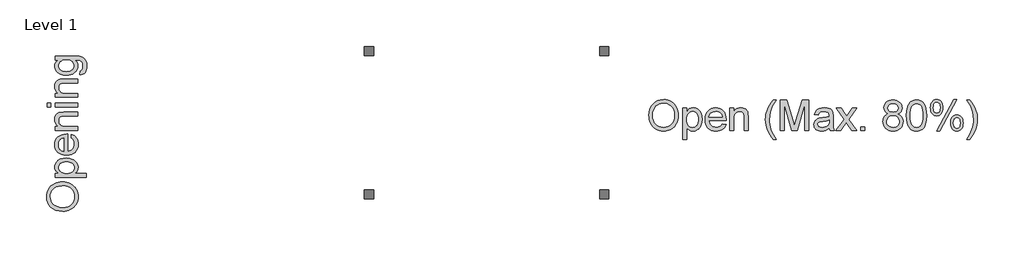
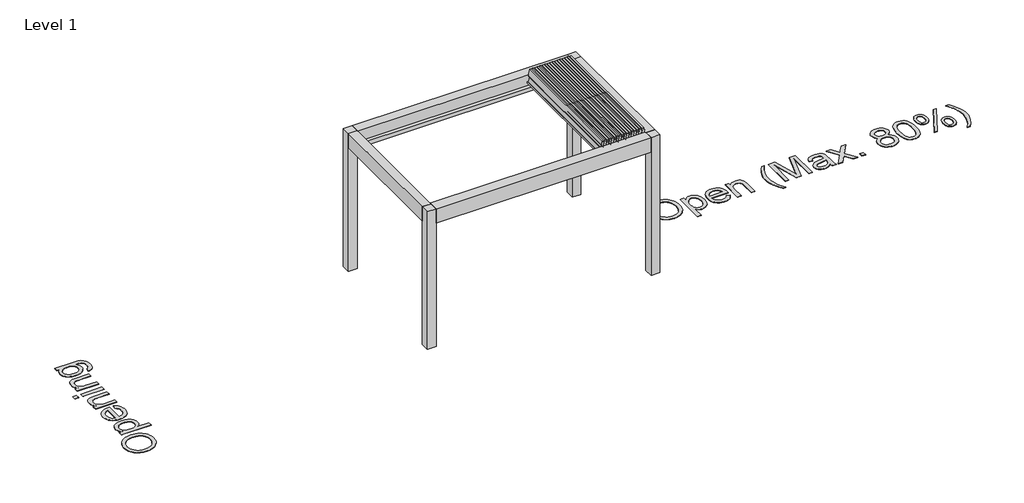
# One storey, part 49 of 69: 3 proxies.
"""IFC4 building model written with IfcOpenShell, lengths in millimetres."""

from ifc_helpers import new_model, si_unit, origin, origin_with_axes, place, context, project, spatial, polyline, outline, extrude, transform, mapped, element, save
from components import generic_models_d3a7603d

model = new_model("IFC4")

# Units and contexts
model_context = context("Model", 3, world=origin())
ifc_project = project(units=[si_unit("LENGTHUNIT", "METRE", prefix="MILLI")], contexts=[model_context])

# Site, building, storey
site = spatial("IfcSite", under=ifc_project)
building = spatial("IfcBuilding", under=site)
storey = spatial("IfcBuildingStorey", under=building, Name="Level 1", Elevation=0.0)

# Proxies
placement = place(None, origin())
generic_models_shape = generic_models_d3a7603d(model_context)
element("IfcBuildingElementProxy", 1, Name="Renson_Camargue_Skye_Freestanding_Patio covers : Renson_Camargue_Skye_Freestanding_Patio covers", ObjectType="Renson_Camargue_Skye_Freestanding_Patio covers : Renson_Camargue_Skye_Freestanding_Patio covers", at=placement, inside=storey, context=model_context, shape_type="MappedRepresentation", body=[
    mapped(generic_models_shape, transform((89532.7944478, 53378.5861401, 0.0), x_axis=(1.0, 0.0, 0.0), y_axis=(0.0, 1.0, 0.0), z_axis=(0.0, 0.0, 1.0))),
])
element("IfcBuildingElementProxy", 2, Name="500mm Arial", ObjectType="500mm Arial", at=placement, inside=storey, context=model_context, shape_type="SweptSolid", body=[
    extrude(outline(polyline([(92189.4887705, 53492.4677741), (92193.6734282, 53551.3825428), (92206.2274013, 53603.5374798), (92227.1506898, 53648.9325852), (92256.4432936, 53687.5678589), (92292.3501092, 53718.416297), (92333.1160328, 53740.4508957), (92378.7410644, 53753.6716549), (92429.225204, 53758.0785746), (92463.0166981, 53756.0092384), (92495.106738, 53749.8012297), (92525.4953236, 53739.4545486), (92554.182455, 53724.9691951), (92580.3633904, 53706.7820289), (92603.2333877, 53685.3299101), (92622.7924471, 53660.6128385), (92639.0405686, 53632.6308143), (92651.8091395, 53602.0199666), (92660.9295473, 53569.4164248), (92666.401792, 53534.8201888), (92668.2258736, 53498.2312587), (92666.3059894, 53461.1594835), (92660.5463369, 53426.0957308), (92650.9469161, 53393.0400007), (92637.507727, 53361.9922931), (92620.5468341, 53333.7726784), (92600.3823023, 53309.2012268), (92577.0141314, 53288.2779384), (92550.4423214, 53271.002813), (92521.7130369, 53257.4831497), (92491.8724421, 53247.8262473), (92460.9205372, 53242.0321059), (92428.857322, 53240.1007254), (92394.4756839, 53242.2352074), (92361.9641126, 53248.6386534), (92331.3226081, 53259.3110633), (92302.5511703, 53274.2524373), (92276.4008919, 53292.8841275), (92253.622865, 53314.6274863), (92234.2170897, 53339.4825136), (92218.1835661, 53367.4492094), (92205.629593, 53397.4047673), (92196.6624694, 53428.2263807), (92191.2821952, 53459.9140496), (92189.4887705, 53492.4677741)]), holes=[polyline([(92252.2739643, 53491.8546374), (92255.4124576, 53450.2303225), (92264.8279374, 53413.2811746), (92280.5204038, 53381.0071938), (92302.4898567, 53353.4083799), (92329.1957903, 53331.3048034), (92359.0976987, 53315.5165344), (92392.1955819, 53306.043573), (92428.48944, 53302.8859193), (92465.404099, 53306.0742299), (92498.8928569, 53315.6391618), (92528.9557136, 53331.5807149), (92555.5926694, 53353.8988893), (92577.4011739, 53382.0801829), (92592.9786771, 53415.6110939), (92602.3251791, 53454.4916223), (92605.4406797, 53498.721768), (92600.1063908, 53554.3026061), (92584.103524, 53602.3418633), (92572.2048407, 53623.2306629), (92557.8459466, 53641.6285947), (92541.0268416, 53657.5356589), (92521.7475258, 53670.9518554), (92500.6058074, 53681.6012728), (92478.1994946, 53689.2079994), (92454.5285875, 53693.7720354), (92429.593086, 53695.2933808), (92394.5599902, 53692.3618211), (92362.0560831, 53683.5671422), (92332.0813647, 53668.9093439), (92304.635835, 53648.3884264), (92281.7275166, 53621.0157067), (92265.364432, 53585.802502), (92255.5465813, 53542.7488122), (92252.2739643, 53491.8546374)])]), origin_with_axes(), (0.0, 0.0, 1.0), 5.0),
    extrude(outline(polyline([(92746.7073659, 53106.6821885), (92746.7073659, 53616.8118885), (92809.4925597, 53616.8118885), (92809.4925597, 53555.2529679), (92829.9713241, 53585.618561), (92852.9026351, 53607.3082703), (92879.6353934, 53620.3220958), (92911.5184997, 53624.6600377), (92933.4151426, 53623.1425245), (92953.9782133, 53618.5899848), (92973.2077118, 53611.0024186), (92991.103638, 53600.379826), (93007.2751174, 53586.9981184), (93021.3312753, 53571.1332074), (93043.0976266, 53531.9537749), (93056.249408, 53485.692614), (93060.6333351, 53435.2008102), (93055.6822566, 53381.5053673), (93040.829021, 53333.4814385), (93029.8078896, 53312.2055965), (93016.5488093, 53293.566242), (93001.0517803, 53277.5633753), (92983.3168024, 53264.1969961), (92944.6125508, 53246.1247931), (92903.9156051, 53240.1007254), (92875.0521969, 53244.1320989), (92849.2851288, 53256.2262195), (92827.2275376, 53274.4823635), (92809.4925597, 53296.9998073), (92809.4925597, 53106.6821885), (92746.7073659, 53106.6821885)]), holes=[polyline([(92809.4925597, 53429.4373256), (92811.1901818, 53399.1790315), (92816.2830482, 53373.1513803), (92824.7711588, 53351.3543721), (92836.6545137, 53333.7880069), (92850.9597583, 53320.2683435), (92866.7135384, 53310.6114412), (92883.9158537, 53304.8172997), (92902.5667045, 53302.8859193), (92921.4858025, 53304.8862776), (92939.0023504, 53310.8873527), (92955.1163482, 53320.8891444), (92969.8277959, 53334.8916528), (92982.086697, 53353.0941474), (92990.8430549, 53375.6958975), (92996.0968697, 53402.6969031), (92997.8481412, 53434.0971642), (92996.1390228, 53464.0948752), (92991.0116675, 53490.0765411), (92982.4660753, 53512.0421619), (92970.5022463, 53529.9917376), (92956.1625127, 53543.9405966), (92940.4892068, 53553.9040673), (92923.4823287, 53559.8821497), (92905.1418784, 53561.8748439), (92886.8589097, 53559.7556903), (92869.6565943, 53553.3982296), (92853.5349323, 53542.8024617), (92838.4939237, 53527.9683866), (92825.8058269, 53509.0952739), (92816.7429007, 53486.3823928), (92811.3051449, 53459.8297433), (92809.4925597, 53429.4373256)])]), origin_with_axes(), (0.0, 0.0, 1.0), 5.0),
    extrude(outline(polyline([(93389.5198388, 53357.8229639), (93451.0787593, 53349.9748146), (93441.6402869, 53325.3190568), (93428.8985407, 53303.5910264), (93412.8535207, 53284.7907236), (93393.505227, 53268.9181484), (93371.052929, 53256.3105258), (93345.6958961, 53247.3050812), (93317.4341282, 53241.9018143), (93286.2676255, 53240.1007254), (93247.310455, 53243.2085619), (93212.5992559, 53252.5320712), (93182.1340282, 53268.0712534), (93155.9147718, 53289.8261084), (93134.830535, 53317.1911639), (93119.7703658, 53349.5609474), (93110.7342643, 53386.9354588), (93107.7222305, 53429.3146983), (93110.7649211, 53473.1309767), (93119.8929931, 53511.750922), (93135.1064465, 53545.1745341), (93156.4052812, 53573.401813), (93182.5555596, 53595.8272863), (93212.3233444, 53611.8454815), (93245.7086355, 53621.4563987), (93282.7114328, 53624.6600377), (93318.5224458, 53621.4640629), (93350.9075577, 53611.8761384), (93379.8667685, 53595.8962642), (93405.4000782, 53573.5244404), (93426.2428925, 53545.3584751), (93441.130617, 53511.9961767), (93450.0632517, 53473.4375451), (93453.0407966, 53429.6825803), (93452.6729146, 53412.7600085), (93170.5074243, 53412.7600085), (93174.1440911, 53387.7057118), (93181.3752716, 53365.7630836), (93192.2009657, 53346.932124), (93206.6211735, 53331.2128329), (93223.8388173, 53318.8198082), (93243.0568194, 53309.9676477), (93264.2751799, 53304.6563514), (93287.4938988, 53302.8859193), (93320.9098467, 53306.1662004), (93349.0528193, 53316.0070438), (93371.9228167, 53333.021586), (93389.5198388, 53357.8229639)]), holes=[polyline([(93170.5074243, 53475.5452023), (93390.2556028, 53475.5452023), (93381.76366, 53508.7158956), (93365.1169997, 53532.4442842), (93347.9951586, 53545.3201541), (93328.5127412, 53554.517204), (93306.6697478, 53560.0354339), (93282.4661782, 53561.8748439), (93240.1444203, 53556.0040604), (93221.73116, 53548.665581), (93205.1496455, 53538.3917098), (93191.2352755, 53525.6576279), (93180.8234486, 53510.9385159), (93173.9141649, 53494.2343741), (93170.5074243, 53475.5452023)])]), origin_with_axes(), (0.0, 0.0, 1.0), 5.0),
    extrude(outline(polyline([(93515.8259904, 53247.9488746), (93515.8259904, 53616.8118885), (93578.6111843, 53616.8118885), (93578.6111843, 53565.3084092), (93600.4235209, 53591.2747466), (93626.6197847, 53609.8221306), (93657.1999755, 53620.9505609), (93692.1640935, 53624.6600377), (93723.1121663, 53621.6709965), (93751.4544084, 53612.7038729), (93775.0908265, 53598.8776412), (93791.9214278, 53581.3112759), (93803.3410981, 53560.0507623), (93810.7447232, 53535.1420855), (93814.0556612, 53474.4415563), (93814.0556612, 53247.9488746), (93751.2704674, 53247.9488746), (93751.2704674, 53465.9802705), (93749.4617142, 53498.4458565), (93744.0354548, 53521.5304517), (93734.0259988, 53538.0698131), (93718.4676561, 53550.8996977), (93698.5253863, 53559.1310573), (93675.364149, 53561.8748439), (93656.299431, 53560.334338), (93638.5912779, 53555.7128204), (93622.2396896, 53548.0102912), (93607.2446662, 53537.2267502), (93594.7175179, 53522.1359242), (93585.7695548, 53501.5115398), (93580.4007769, 53475.3535971), (93578.6111843, 53443.6620961), (93578.6111843, 53247.9488746), (93515.8259904, 53247.9488746)])), origin_with_axes(), (0.0, 0.0, 1.0), 5.0),
    extrude(outline(polyline([(94222.1594212, 53106.6821885), (94196.8138846, 53139.4773355), (94173.5070273, 53174.9549554), (94133.009351, 53253.9576139), (94117.0754621, 53296.5246264), (94105.6941129, 53339.8580598), (94098.8653033, 53383.9579139), (94096.5890335, 53428.8241889), (94098.2904877, 53468.2565403), (94103.3948504, 53506.8458288), (94111.9021215, 53544.5920543), (94123.8123011, 53581.4952169), (94141.915161, 53623.8169748), (94164.3406343, 53666.0467622), (94191.088721, 53708.184579), (94222.1594212, 53750.2304254), (94269.2483166, 53750.2304254), (94210.5098247, 53650.7796594), (94190.4602559, 53603.5681366), (94175.1931531, 53554.3945766), (94163.3289588, 53491.578726), (94159.3742273, 53428.4563069), (94161.09101, 53388.2077174), (94166.2413579, 53347.9667921), (94174.8252711, 53307.733531), (94186.8427496, 53267.5079341), (94221.1784025, 53187.0797329), (94269.2483166, 53106.6821885), (94222.1594212, 53106.6821885)])), origin_with_axes(), (0.0, 0.0, 1.0), 5.0),
    extrude(outline(polyline([(94339.8816596, 53247.9488746), (94339.8816596, 53750.2304254), (94447.9163389, 53750.2304254), (94550.6780429, 53396.2053187), (94571.4020619, 53322.2610377), (94593.8428636, 53402.3366853), (94694.887785, 53750.2304254), (94802.9224642, 53750.2304254), (94802.9224642, 53247.9488746), (94740.1372704, 53247.9488746), (94740.1372704, 53687.4452315), (94613.953746, 53247.9488746), (94528.8503778, 53247.9488746), (94402.6668535, 53687.4452315), (94402.6668535, 53247.9488746), (94339.8816596, 53247.9488746)])), origin_with_axes(), (0.0, 0.0, 1.0), 5.0),
    extrude(outline(polyline([(95140.3928811, 53295.03777), (95110.3951701, 53269.3166872), (95079.5084109, 53252.4860859), (95047.0274964, 53243.1970655), (95012.2473195, 53240.1007254), (94984.29212, 53241.963128), (94959.7781499, 53247.5503358), (94938.7054094, 53256.8623488), (94921.0738983, 53269.899167), (94907.1518641, 53285.8330559), (94897.2075539, 53303.8362811), (94891.2409678, 53323.9088424), (94889.2521058, 53346.05074), (94892.2564754, 53372.0783912), (94901.2695843, 53395.7148094), (94915.172458, 53415.9483191), (94932.8461222, 53431.7672449), (94953.6161265, 53443.7234097), (94976.8080206, 53452.3686366), (95031.1319286, 53461.8109412), (95095.3273367, 53471.743755), (95140.0249991, 53483.3933516), (95140.3928811, 53497.3728674), (95136.0702677, 53525.3932127), (95123.1024274, 53543.7259988), (95110.0272881, 53551.6661185), (95094.1010634, 53557.3376326), (95053.6953576, 53561.8748439), (95016.2940214, 53558.8551458), (94990.1743998, 53549.7960517), (94972.3627798, 53533.0420925), (94959.8854488, 53506.9377992), (94897.100255, 53514.7859485), (94907.9987591, 53549.1216014), (94924.262209, 53576.0996143), (94947.4081178, 53596.7316629), (94978.9539989, 53612.0294225), (95017.5356232, 53621.5023839), (95061.7887615, 53624.6600377), (95104.2331467, 53621.8702659), (95137.8790208, 53613.5009505), (95163.2475501, 53600.9163206), (95180.8599006, 53585.4806052), (95192.540154, 53566.3967267), (95200.1123917, 53542.8676074), (95203.178075, 53487.9305628), (95203.178075, 53409.8169525), (95206.3663856, 53300.739941), (95211.0875379, 53273.7772564), (95218.8743734, 53247.9488746), (95156.0891796, 53247.9488746), (95146.0337384, 53269.7765397), (95140.3928811, 53295.03777)]), holes=[polyline([(95140.3928811, 53420.6081577), (95098.209079, 53410.1541777), (95039.1027051, 53401.3556666), (94985.0853655, 53391.1775981), (94971.0292076, 53384.218497), (94960.6212128, 53374.6229083), (94954.1832779, 53363.126596), (94952.0372996, 53350.465324), (94956.7124666, 53331.7953127), (94970.7379677, 53316.4975531), (94993.8072345, 53306.2888277), (95025.6136986, 53302.8859193), (95059.3362149, 53306.6413813), (95089.1346565, 53317.9077674), (95113.2922408, 53334.5084424), (95130.0921853, 53354.2667713), (95137.5417957, 53374.6229083), (95140.0249991, 53402.8271946), (95140.3928811, 53420.6081577)])]), origin_with_axes(), (0.0, 0.0, 1.0), 5.0),
    extrude(outline(polyline([(95250.2669704, 53247.9488746), (95384.4212713, 53433.3614002), (95258.1151196, 53616.8118885), (95333.6535559, 53616.8118885), (95394.5993398, 53528.5202096), (95423.0488808, 53486.8269168), (95447.6969744, 53520.9173151), (95517.1040442, 53616.8118885), (95592.6424805, 53616.8118885), (95459.9597076, 53433.3614002), (95587.7373873, 53247.9488746), (95512.1989509, 53247.9488746), (95435.3116139, 53359.4171192), (95421.2094708, 53379.7732562), (95325.8054067, 53247.9488746), (95250.2669704, 53247.9488746)])), origin_with_axes(), (0.0, 0.0, 1.0), 5.0),
    extrude(outline(polyline([(95658.3707304, 53247.9488746), (95658.3707304, 53310.7340685), (95721.1559242, 53310.7340685), (95721.1559242, 53247.9488746), (95658.3707304, 53247.9488746)])), origin_with_axes(), (0.0, 0.0, 1.0), 5.0),
    extrude(outline(polyline([(96110.8655844, 53524.596135), (96077.2503671, 53541.1508248), (96053.6599342, 53563.5916265), (96039.7264036, 53591.4586876), (96035.0818934, 53624.2921557), (96037.6110821, 53649.8982754), (96045.1986483, 53673.3737452), (96057.8445919, 53694.7185652), (96075.5489129, 53713.9327352), (96097.4608842, 53729.8129747), (96122.7297788, 53741.1560028), (96151.3555965, 53747.9618198), (96183.3383375, 53750.2304254), (96215.4743626, 53747.9081703), (96244.3147782, 53740.941405), (96269.8595842, 53729.3301295), (96292.1087807, 53713.0743439), (96310.1349985, 53693.4846276), (96323.0108683, 53671.8715604), (96330.7363902, 53648.2351422), (96333.3115642, 53622.5753731), (96328.7283676, 53590.7995657), (96314.9787781, 53563.4076855), (96291.9095113, 53541.1048396), (96259.3672831, 53524.596135), (96280.0031638, 53515.8167845), (96298.010221, 53504.684522), (96313.3884549, 53491.1993476), (96326.1378653, 53475.3612613), (96336.1434891, 53457.5228167), (96343.2903633, 53438.0365672), (96349.0078626, 53394.1206541), (96346.1721056, 53362.8046992), (96337.6648344, 53334.0945752), (96323.4860492, 53307.9902819), (96303.6357499, 53284.4918195), (96279.1562688, 53265.0707158), (96251.0899382, 53251.1984989), (96219.4367582, 53242.8751688), (96184.1967288, 53240.1007254), (96148.9566993, 53242.8866651), (96117.3035193, 53251.2444842), (96089.2371888, 53265.1741826), (96064.7577077, 53284.6757605), (96044.9074084, 53308.3390034), (96030.7286231, 53334.7536971), (96022.221352, 53363.9198415), (96019.385595, 53395.8374367), (96020.8724513, 53419.6577959), (96025.3330205, 53441.4548041), (96032.7673025, 53461.2284613), (96043.1752973, 53478.9787676), (96056.3270786, 53494.3838262), (96071.9927203, 53507.1217402), (96090.1722222, 53517.1925099), (96110.8655844, 53524.596135)]), holes=[polyline([(96097.8670873, 53622.4527457), (96103.4313024, 53595.0455371), (96120.123948, 53573.1565584), (96132.5208048, 53564.787243), (96147.4545145, 53558.8091606), (96184.9324928, 53554.0266946), (96221.5367513, 53558.7785037), (96236.2060459, 53564.7182651), (96248.4534506, 53573.033931), (96265.0081404, 53594.1871458), (96270.5263703, 53619.6323171), (96264.8241994, 53646.0431787), (96247.7176866, 53667.8861721), (96235.1943704, 53676.4432606), (96220.4331053, 53682.5554667), (96184.1967288, 53687.4452315), (96147.730426, 53682.6627656), (96132.9576646, 53676.6846832), (96120.49183, 53668.3153678), (96103.5232729, 53647.2847804), (96097.8670873, 53622.4527457)]), polyline([(96082.1707888, 53398.0447287), (96084.791948, 53374.0251001), (96092.6554257, 53350.7718923), (96107.171436, 53330.4923973), (96129.7501935, 53315.3939071), (96156.7895201, 53306.0129162), (96184.6872381, 53302.8859193), (96207.3886229, 53304.5298919), (96227.4228632, 53309.4618099), (96244.7899591, 53317.6816733), (96259.4899105, 53329.1894819), (96271.1854922, 53343.2341435), (96279.5394792, 53359.0645656), (96284.5518714, 53376.6807482), (96286.2226688, 53396.0826914), (96284.4982219, 53415.7950349), (96279.3248814, 53433.7292822), (96270.7026471, 53449.8854332), (96258.6315191, 53464.2634878), (96243.5330289, 53476.0663685), (96225.8287079, 53484.4969975), (96205.5185561, 53489.555375), (96182.6025735, 53491.2415008), (96160.2345817, 53489.5783676), (96140.4647566, 53484.588968), (96123.2930981, 53476.2733021), (96108.7196061, 53464.6313698), (96097.1044985, 53450.4909056), (96088.8079931, 53434.679644), (96083.8300899, 53417.1975851), (96082.1707888, 53398.0447287)])]), origin_with_axes(), (0.0, 0.0, 1.0), 5.0),
    extrude(outline(polyline([(96403.9449072, 53495.0429481), (96408.5587606, 53575.4404924), (96422.4003207, 53639.5592585), (96432.7470018, 53665.7593544), (96445.3316317, 53688.380265), (96460.1542104, 53707.4219903), (96477.2147379, 53722.8845304), (96496.5706958, 53734.8483595), (96518.2795657, 53743.3939516), (96542.3413474, 53748.521307), (96568.7560411, 53750.2304254), (96607.4449642, 53746.1837234), (96642.0871855, 53734.0436176), (96671.0578926, 53714.2852888), (96692.7322735, 53687.3839179), (96709.1030222, 53653.5694312), (96722.1628331, 53613.0717549), (96730.7160895, 53561.6449176), (96733.5671749, 53495.0429481), (96728.9993068, 53415.1052562), (96715.2957025, 53351.1397743), (96705.0294956, 53324.9281821), (96692.5023472, 53302.2727826), (96677.7142574, 53283.1735757), (96660.6652262, 53267.6305614), (96641.2862757, 53255.5862581), (96619.508428, 53246.9831844), (96595.3316831, 53241.8213402), (96568.7560411, 53240.1007254), (96534.1751335, 53243.0897666), (96503.5183006, 53252.0568903), (96476.7855423, 53267.0020963), (96453.9768586, 53287.9253848), (96432.0878799, 53325.7482524), (96416.4528951, 53372.8754688), (96407.0719042, 53429.3070341), (96403.9449072, 53495.0429481)]), holes=[polyline([(96466.7301011, 53495.1655754), (96468.5695111, 53440.5849165), (96474.087741, 53396.4045881), (96483.2847909, 53362.6245903), (96496.1606607, 53339.2449231), (96511.7343318, 53323.3378589), (96529.0247856, 53311.9756702), (96548.032022, 53305.158357), (96568.7560411, 53302.8859193), (96589.4800601, 53305.1660212), (96608.4872966, 53312.0063271), (96625.7777503, 53323.4068368), (96641.3514215, 53339.3675504), (96654.2272913, 53362.7855387), (96663.4243412, 53396.5578723), (96668.9425711, 53440.6845512), (96670.7819811, 53495.1655754), (96669.0038848, 53548.3015311), (96663.6695958, 53591.7039423), (96654.7791143, 53625.3728091), (96642.3324401, 53649.3081314), (96627.0193521, 53665.9931127), (96609.5296289, 53677.9109565), (96589.8632706, 53685.0616628), (96568.0202771, 53687.4452315), (96547.4035569, 53685.3452385), (96528.7182173, 53679.0452593), (96511.9642581, 53668.545294), (96497.1416794, 53653.8453427), (96483.8366139, 53627.7870347), (96474.3329957, 53592.6543041), (96468.6308247, 53548.447151), (96466.7301011, 53495.1655754)])]), origin_with_axes(), (0.0, 0.0, 1.0), 5.0),
    extrude(outline(polyline([(97125.9746364, 53377.075455), (97127.5802881, 53403.2525582), (97132.3972429, 53427.3373325), (97140.4255011, 53449.3297781), (97151.6650624, 53469.2298947), (97165.9703071, 53485.727103), (97183.1956151, 53497.5108231), (97203.3409864, 53504.5810552), (97226.4064211, 53506.9377992), (97247.8278831, 53504.8186457), (97267.3332931, 53498.4611849), (97284.922651, 53487.8654171), (97300.5959568, 53473.031342), (97313.4718267, 53454.0892514), (97322.6688765, 53431.1694367), (97328.1871065, 53404.2718979), (97330.0265164, 53373.396635), (97328.1679459, 53343.1766619), (97322.5922344, 53316.6508372), (97313.299382, 53293.8191609), (97300.2893885, 53274.681633), (97284.5356085, 53259.5524859), (97267.0113963, 53248.7459523), (97247.7167521, 53242.2620321), (97226.6516758, 53240.1007254), (97205.9698099, 53242.2428716), (97187.0890329, 53248.6693102), (97170.0093448, 53259.3800412), (97154.7307457, 53274.3750646), (97142.1499479, 53293.6467162), (97133.1636638, 53317.1873318), (97127.7718933, 53344.9969114), (97125.9746364, 53377.075455)]), holes=[polyline([(97228.0005764, 53459.8489039), (97206.2648819, 53455.0970948), (97188.637203, 53440.8416674), (97181.8237218, 53429.3530193), (97176.9569496, 53413.8943113), (97173.0635318, 53371.0667157), (97177.0029349, 53331.91794), (97181.9271886, 53317.378937), (97188.821144, 53306.1968572), (97206.4028376, 53291.9414299), (97227.6326944, 53287.1896208), (97249.6443005, 53291.9414299), (97267.3639499, 53306.1968572), (97274.177431, 53317.6625127), (97279.0442033, 53333.0522429), (97282.9376211, 53375.603927), (97278.998218, 53415.2585404), (97274.0739642, 53429.8780176), (97267.1800089, 53441.0256084), (97249.5063447, 53455.14308), (97228.0005764, 53459.8489039)])]), origin_with_axes(), (0.0, 0.0, 1.0), 5.0),
    extrude(outline(polyline([(96898.5009361, 53240.1007254), (97176.8649791, 53758.0785746), (97229.2268498, 53758.0785746), (96950.8628067, 53240.1007254), (96898.5009361, 53240.1007254)])), origin_with_axes(), (0.0, 0.0, 1.0), 5.0),
    extrude(outline(polyline([(96796.3523688, 53628.2162303), (96797.9580204, 53654.2438815), (96802.7749753, 53678.2481817), (96810.8032334, 53700.2291309), (96822.0427948, 53720.1867291), (96836.332711, 53736.7644115), (96853.5120338, 53748.6056132), (96873.580763, 53755.7103343), (96896.5388988, 53758.0785746), (96918.0676597, 53755.959421), (96937.6497117, 53749.6019603), (96955.2850549, 53739.0061924), (96970.9736891, 53724.1721174), (96983.849559, 53705.2300268), (96993.0466089, 53682.310212), (96998.5648388, 53655.4126732), (97000.4042488, 53624.5374104), (96998.5418462, 53594.3174373), (96992.9546384, 53567.7916126), (96983.6426253, 53544.9599363), (96970.6058071, 53525.8224083), (96954.848195, 53510.6932613), (96937.3738002, 53499.8867277), (96918.1826228, 53493.4028075), (96897.2746628, 53491.2415008), (96876.5353153, 53493.3721507), (96857.604721, 53499.7641003), (96840.4828798, 53510.4173498), (96825.1697917, 53525.331899), (96812.5621692, 53544.546069), (96803.5567245, 53568.0981809), (96798.1534577, 53595.9882347), (96796.3523688, 53628.2162303)]), holes=[polyline([(96898.2556814, 53710.9896792), (96876.6885995, 53706.2378701), (96859.0762489, 53691.9824428), (96852.2359431, 53680.4937947), (96847.3500103, 53665.0350867), (96843.4412641, 53622.2074911), (96847.3959956, 53582.8287892), (96852.3394099, 53568.2782898), (96859.2601899, 53557.1536916), (96876.9185257, 53543.03622), (96898.2556814, 53538.3303962), (96920.0067044, 53543.0822053), (96937.6803686, 53557.3376326), (96944.5206744, 53568.8032881), (96949.4066072, 53584.1930182), (96953.3153534, 53626.7447023), (96949.3606219, 53666.3993157), (96944.4172076, 53681.0187929), (96937.4964276, 53692.1663838), (96919.7767781, 53706.2838554), (96898.2556814, 53710.9896792)])]), origin_with_axes(), (0.0, 0.0, 1.0), 5.0),
    extrude(outline(polyline([(97439.9006057, 53106.6821885), (97392.8117103, 53106.6821885), (97440.8816243, 53187.0797329), (97475.2172772, 53267.5079341), (97487.2347557, 53307.733531), (97495.8186689, 53347.9667921), (97500.9690169, 53388.2077174), (97502.6857995, 53428.4563069), (97498.7310681, 53491.1188735), (97486.8668737, 53553.2909306), (97471.8756824, 53602.5564612), (97451.9180842, 53649.7986407), (97392.8117103, 53750.2304254), (97439.9006057, 53750.2304254), (97470.9713058, 53708.184579), (97497.7193926, 53666.0467622), (97520.1448659, 53623.8169748), (97538.2477257, 53581.4952169), (97550.1579053, 53544.5920543), (97558.6651764, 53506.8458288), (97563.7695391, 53468.2565403), (97565.4709933, 53428.8241889), (97563.1832272, 53383.9579139), (97556.3199287, 53339.8580598), (97544.8810979, 53296.5246264), (97528.8667348, 53253.9576139), (97488.3230733, 53174.9549554), (97439.9006057, 53106.6821885)])), origin_with_axes(), (0.0, 0.0, 1.0), 5.0),
])
element("IfcBuildingElementProxy", 3, Name="500mm Arial", ObjectType="500mm Arial", at=placement, inside=storey, context=model_context, shape_type="SweptSolid", body=[
    extrude(outline(polyline([(82598.1031501, 51927.6849232), (82539.1883814, 51931.8695809), (82487.0334444, 51944.423554), (82441.638339, 51965.3468425), (82403.0030653, 51994.6394463), (82372.1546272, 52030.5462619), (82350.1200285, 52071.3121855), (82336.8992693, 52116.9372171), (82332.4923496, 52167.4213567), (82334.5616858, 52201.2128508), (82340.7696945, 52233.3028907), (82351.1163756, 52263.6914764), (82365.6017292, 52292.3786078), (82383.7888953, 52318.5595431), (82405.2410141, 52341.4295405), (82429.9580857, 52360.9885999), (82457.9401099, 52377.2367213), (82488.5509576, 52390.0052922), (82521.1544995, 52399.1257), (82555.7507354, 52404.5979447), (82592.3396655, 52406.4220263), (82629.4114407, 52404.5021421), (82664.4751934, 52398.7424896), (82697.5309235, 52389.1430688), (82728.5786311, 52375.7038797), (82756.7982458, 52358.7429869), (82781.3696974, 52338.578455), (82802.2929859, 52315.2102841), (82819.5681112, 52288.6384742), (82833.0877745, 52259.9091896), (82842.7446769, 52230.0685948), (82848.5388183, 52199.1166899), (82850.4701988, 52167.0534748), (82848.3357168, 52132.6718366), (82841.9322708, 52100.1602653), (82831.2598609, 52069.5187608), (82816.3184869, 52040.7473231), (82797.6867967, 52014.5970446), (82775.9434379, 51991.8190177), (82751.0884106, 51972.4132425), (82723.1217148, 51956.3797188), (82693.1661569, 51943.8257458), (82662.3445435, 51934.8586221), (82630.6568746, 51929.4783479), (82598.1031501, 51927.6849232)]), holes=[polyline([(82598.7162868, 51990.4701171), (82640.3406017, 51993.6086103), (82677.2897496, 52003.0240902), (82709.5637304, 52018.7165565), (82737.1625443, 52040.6860094), (82759.2661208, 52067.391943), (82775.0543898, 52097.2938514), (82784.5273512, 52130.3917347), (82787.685005, 52166.6855928), (82784.4966943, 52203.6002517), (82774.9317625, 52237.0890096), (82758.9902093, 52267.1518664), (82736.672035, 52293.7888221), (82708.4907413, 52315.5973266), (82674.9598303, 52331.1748298), (82636.0793019, 52340.5213318), (82591.8491562, 52343.6368324), (82536.2683181, 52338.3025435), (82488.2290609, 52322.2996767), (82467.3402613, 52310.4009934), (82448.9423295, 52296.0420993), (82433.0352653, 52279.2229943), (82419.6190688, 52259.9436785), (82408.9696514, 52238.8019601), (82401.3629248, 52216.3956474), (82396.7988888, 52192.7247402), (82395.2775434, 52167.7892387), (82398.2091031, 52132.7561429), (82407.003782, 52100.2522358), (82421.6615803, 52070.2775174), (82442.1824978, 52042.8319877), (82469.5552175, 52019.9236693), (82504.7684223, 52003.5605847), (82547.822112, 51993.742734), (82598.7162868, 51990.4701171)])]), origin_with_axes(), (0.0, 0.0, 1.0), 5.0),
    extrude(outline(polyline([(82983.8887357, 52484.9035186), (82473.7590357, 52484.9035186), (82473.7590357, 52547.6887124), (82535.3179563, 52547.6887124), (82504.9523632, 52568.1674768), (82483.262654, 52591.0987879), (82470.2488284, 52617.8315462), (82465.9108865, 52649.7146524), (82467.4283997, 52671.6112953), (82471.9809394, 52692.174366), (82479.5685056, 52711.4038645), (82490.1910982, 52729.2997907), (82503.5728058, 52745.4712701), (82519.4377168, 52759.527428), (82558.6171493, 52781.2937794), (82604.8783102, 52794.4455607), (82655.370114, 52798.8294878), (82709.0655569, 52793.8784093), (82757.0894857, 52779.0251737), (82778.3653277, 52768.0040423), (82797.0046822, 52754.744962), (82813.007549, 52739.247933), (82826.3739281, 52721.5129551), (82844.4461311, 52682.8087036), (82850.4701988, 52642.1117579), (82846.4388253, 52613.2483497), (82834.3447047, 52587.4812816), (82816.0885607, 52565.4236903), (82793.5711169, 52547.6887124), (82983.8887357, 52547.6887124), (82983.8887357, 52484.9035186)]), holes=[polyline([(82661.1335986, 52547.6887124), (82691.3918927, 52549.3863346), (82717.4195439, 52554.4792009), (82739.2165521, 52562.9673115), (82756.7829174, 52574.8506664), (82770.3025807, 52589.1559111), (82779.9594831, 52604.9096911), (82785.7536245, 52622.1120065), (82787.685005, 52640.7628572), (82785.6846466, 52659.6819552), (82779.6835716, 52677.1985031), (82769.6817798, 52693.312501), (82755.6792714, 52708.0239487), (82737.4767768, 52720.2828497), (82714.8750267, 52729.0392076), (82687.8740211, 52734.2930224), (82656.47376, 52736.044294), (82626.476049, 52734.3351755), (82600.4943831, 52729.2078202), (82578.5287623, 52720.662228), (82560.5791866, 52708.698399), (82546.6303276, 52694.3586654), (82536.6668569, 52678.6853595), (82530.6887745, 52661.6784815), (82528.6960804, 52643.3380312), (82530.8152339, 52625.0550624), (82537.1726947, 52607.8527471), (82547.7684625, 52591.731085), (82562.6025376, 52576.6900764), (82581.4756504, 52564.0019797), (82604.1885314, 52554.9390534), (82630.7411809, 52549.5012977), (82661.1335986, 52547.6887124)])]), origin_with_axes(), (0.0, 0.0, 1.0), 5.0),
    extrude(outline(polyline([(82732.7479603, 53127.7159915), (82740.5961096, 53189.274912), (82765.2518675, 53179.8364396), (82786.9798978, 53167.0946934), (82805.7802006, 53151.0496735), (82821.6527758, 53131.7013798), (82834.2603984, 53109.2490818), (82843.2658431, 53083.8920488), (82848.6691099, 53055.630281), (82850.4701988, 53024.4637782), (82847.3623624, 52985.5066077), (82838.038853, 52950.7954086), (82822.4996709, 52920.3301809), (82800.7448158, 52894.1109246), (82773.3797603, 52873.0266877), (82741.0099768, 52857.9665185), (82703.6354654, 52848.930417), (82661.2562259, 52845.9183832), (82617.4399475, 52848.9610739), (82578.8200022, 52858.0891459), (82545.3963901, 52873.3025992), (82517.1691112, 52894.6014339), (82494.7436379, 52920.7517124), (82478.7254427, 52950.5194971), (82469.1145256, 52983.9047882), (82465.9108865, 53020.9075856), (82469.1068613, 53056.7185985), (82478.6947858, 53089.1037104), (82494.67466, 53118.0629212), (82517.0464838, 53143.5962309), (82545.2124491, 53164.4390452), (82578.5747475, 53179.3267697), (82617.1333792, 53188.2594044), (82660.888344, 53191.2369493), (82677.8109157, 53190.8690673), (82677.8109157, 52908.703577), (82702.8652124, 52912.3402438), (82724.8078406, 52919.5714243), (82743.6388002, 52930.3971184), (82759.3580913, 52944.8173262), (82771.751116, 52962.03497), (82780.6032766, 52981.2529722), (82785.9145729, 53002.4713327), (82787.685005, 53025.6900515), (82784.4047238, 53059.1059994), (82774.5638805, 53087.248972), (82757.5493382, 53110.1189694), (82732.7479603, 53127.7159915)]), holes=[polyline([(82615.0257219, 52908.703577), (82615.0257219, 53128.4517555), (82581.8550287, 53119.9598128), (82558.12664, 53103.3131525), (82545.2507701, 53086.1913113), (82536.0537203, 53066.708894), (82530.5354903, 53044.8659005), (82528.6960804, 53020.6623309), (82534.5668639, 52978.340573), (82541.9053432, 52959.9273128), (82552.1792144, 52943.3457982), (82564.9132964, 52929.4314282), (82579.6324083, 52919.0196013), (82596.3365501, 52912.1103176), (82615.0257219, 52908.703577)])]), origin_with_axes(), (0.0, 0.0, 1.0), 5.0),
    extrude(outline(polyline([(82842.6220496, 53254.0221432), (82473.7590357, 53254.0221432), (82473.7590357, 53316.807337), (82525.2625151, 53316.807337), (82499.2961776, 53338.6196736), (82480.7487936, 53364.8159374), (82469.6203633, 53395.3961282), (82465.9108865, 53430.3602462), (82468.8999277, 53461.308319), (82477.8670514, 53489.6505611), (82491.693283, 53513.2869793), (82509.2596483, 53530.1175805), (82530.5201619, 53541.5372508), (82555.4288387, 53548.940876), (82616.1293679, 53552.2518139), (82842.6220496, 53552.2518139), (82842.6220496, 53489.4666201), (82624.5906538, 53489.4666201), (82592.1250677, 53487.6578669), (82569.0404725, 53482.2316075), (82552.5011111, 53472.2221516), (82539.6712265, 53456.6638088), (82531.4398669, 53436.721539), (82528.6960804, 53413.5603017), (82530.2365862, 53394.4955838), (82534.8581038, 53376.7874306), (82542.560633, 53360.4358424), (82553.344174, 53345.440819), (82568.435, 53332.9136706), (82589.0593844, 53323.9657075), (82615.2173271, 53318.5969296), (82646.9088281, 53316.807337), (82842.6220496, 53316.807337), (82842.6220496, 53254.0221432)])), origin_with_axes(), (0.0, 0.0, 1.0), 5.0),
    extrude(outline(polyline([(82842.6220496, 53638.5814555), (82473.7590357, 53638.5814555), (82473.7590357, 53701.3666493), (82842.6220496, 53701.3666493), (82842.6220496, 53638.5814555)])), origin_with_axes(), (0.0, 0.0, 1.0), 5.0),
    extrude(outline(polyline([(82403.1256927, 53638.5814555), (82340.3404988, 53638.5814555), (82340.3404988, 53701.3666493), (82403.1256927, 53701.3666493), (82403.1256927, 53638.5814555)])), origin_with_axes(), (0.0, 0.0, 1.0), 5.0),
    extrude(outline(polyline([(82842.6220496, 53795.5444401), (82473.7590357, 53795.5444401), (82473.7590357, 53858.3296339), (82525.2625151, 53858.3296339), (82499.2961776, 53880.1419705), (82480.7487936, 53906.3382343), (82469.6203633, 53936.9184251), (82465.9108865, 53971.8825431), (82468.8999277, 54002.8306159), (82477.8670514, 54031.172858), (82491.693283, 54054.8092762), (82509.2596483, 54071.6398774), (82530.5201619, 54083.0595477), (82555.4288387, 54090.4631729), (82616.1293679, 54093.7741108), (82842.6220496, 54093.7741108), (82842.6220496, 54030.988917), (82624.5906538, 54030.988917), (82592.1250677, 54029.1801638), (82569.0404725, 54023.7539044), (82552.5011111, 54013.7444485), (82539.6712265, 53998.1861057), (82531.4398669, 53978.2438359), (82528.6960804, 53955.0825986), (82530.2365862, 53936.0178807), (82534.8581038, 53918.3097275), (82542.560633, 53901.9581393), (82553.344174, 53886.9631159), (82568.435, 53874.4359675), (82589.0593844, 53865.4880044), (82615.2173271, 53860.1192265), (82646.9088281, 53858.3296339), (82842.6220496, 53858.3296339), (82842.6220496, 53795.5444401)])), origin_with_axes(), (0.0, 0.0, 1.0), 5.0),
    extrude(outline(polyline([(82874.0146465, 54164.4074539), (82881.8627957, 54227.1926477), (82901.4831688, 54234.121092), (82914.9721753, 54247.5487848), (82925.4568122, 54273.944318), (82928.9516911, 54308.4945687), (82924.9969597, 54345.3440819), (82913.1327653, 54372.7512905), (82894.1255289, 54391.7585269), (82868.7416712, 54403.4081234), (82841.7330014, 54406.8110319), (82795.5331542, 54407.70008), (82816.1345459, 54386.8074484), (82830.8498257, 54363.492927), (82839.6789936, 54337.7565157), (82842.6220496, 54309.5982147), (82839.1961485, 54275.1744234), (82828.9184453, 54244.8663119), (82811.7889399, 54218.6738803), (82787.8076323, 54196.5971285), (82759.0361946, 54179.0805806), (82727.5362987, 54166.5687606), (82693.3079448, 54159.0616687), (82656.3511327, 54156.5593047), (82605.6600594, 54161.0505307), (82559.046345, 54174.5242088), (82519.5450157, 54196.505158), (82503.5996305, 54210.5076664), (82490.1910982, 54226.5181974), (82479.5685056, 54244.28), (82471.9809394, 54263.5363232), (82467.4283997, 54284.287167), (82465.9108865, 54306.5325314), (82469.3444518, 54335.8941131), (82479.6451477, 54362.5425651), (82496.8129741, 54386.4778874), (82520.8479311, 54407.70008), (82473.7590357, 54407.70008), (82473.7590357, 54470.4852739), (82792.2222162, 54470.4852739), (82865.75263, 54466.1933173), (82893.1023571, 54460.8283715), (82914.1750976, 54453.3174474), (82946.2881301, 54431.1372288), (82970.8902386, 54398.9322258), (82980.0106464, 54379.246707), (82986.5252234, 54357.4075456), (82991.736885, 54307.2682954), (82989.9013071, 54276.5079956), (82984.3945735, 54248.8517002), (82975.2166841, 54224.2994091), (82962.367639, 54202.8511224), (82945.8321097, 54185.5261797), (82925.5947679, 54173.3439207), (82901.6556135, 54166.3043454), (82874.0146465, 54164.4074539)]), holes=[polyline([(82652.0591761, 54219.3444985), (82683.1030515, 54221.019128), (82709.6480367, 54226.0430165), (82731.6941317, 54234.416164), (82749.2413365, 54246.1385705), (82762.6268761, 54260.3901657), (82772.1879759, 54276.3508793), (82777.9246358, 54294.0207114), (82779.8368557, 54313.3996619), (82777.9361321, 54332.5870073), (82772.2339612, 54350.172533), (82762.730343, 54366.1562393), (82749.4252775, 54380.5381261), (82732.0505174, 54392.4214809), (82710.3378155, 54400.9095915), (82684.2871717, 54406.0024579), (82653.898586, 54407.70008), (82624.7784269, 54405.9526406), (82599.4673792, 54400.7103221), (82577.965443, 54391.9731247), (82560.2726183, 54379.7410484), (82546.4578829, 54365.0487612), (82536.5902148, 54348.9309313), (82530.669614, 54331.3875587), (82528.6960804, 54312.4186433), (82530.6389571, 54293.7677926), (82536.4675875, 54276.5654772), (82546.1819714, 54260.8116972), (82559.7821089, 54246.5064525), (82577.2066864, 54234.6230976), (82598.39439, 54226.134987), (82623.3452199, 54221.0421206), (82652.0591761, 54219.3444985)])]), origin_with_axes(), (0.0, 0.0, 1.0), 5.0),
])

save(model, "model.ifc")
